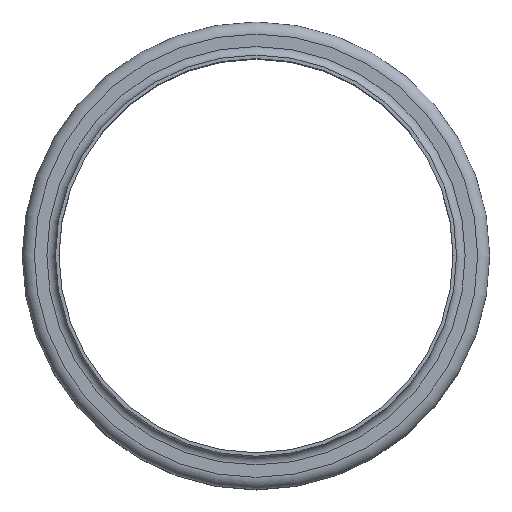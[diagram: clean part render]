
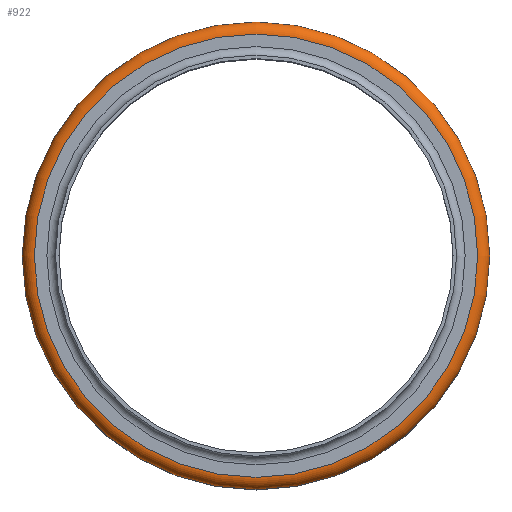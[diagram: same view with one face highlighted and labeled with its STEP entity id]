
A CAD part, top view. The second image highlights one B-rep face of the part: STEP entity #922.
In plain terms, the highlighted toroidal (fillet/blend) face has major radius 153.562 mm and minor radius 8.363 mm.
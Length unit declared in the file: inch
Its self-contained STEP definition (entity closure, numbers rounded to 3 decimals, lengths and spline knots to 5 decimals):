
#63=TOROIDAL_SURFACE('',#1113,6.04575,0.32925);
#166=FACE_OUTER_BOUND('',#273,.T.);
#273=EDGE_LOOP('',(#774,#775,#776,#777));
#386=CIRCLE('',#1112,6.04575);
#387=CIRCLE('',#1114,6.04575);
#388=CIRCLE('',#1115,0.32925);
#467=VERTEX_POINT('',#1738);
#468=VERTEX_POINT('',#1741);
#572=EDGE_CURVE('',#467,#467,#386,.T.);
#573=EDGE_CURVE('',#468,#468,#387,.T.);
#574=EDGE_CURVE('',#468,#467,#388,.T.);
#774=ORIENTED_EDGE('',*,*,#573,.F.);
#775=ORIENTED_EDGE('',*,*,#574,.T.);
#776=ORIENTED_EDGE('',*,*,#572,.T.);
#777=ORIENTED_EDGE('',*,*,#574,.F.);
#922=ADVANCED_FACE('',(#166),#63,.T.);
#1112=AXIS2_PLACEMENT_3D('',#1739,#1450,#1451);
#1113=AXIS2_PLACEMENT_3D('',#1740,#1452,#1453);
#1114=AXIS2_PLACEMENT_3D('',#1742,#1454,#1455);
#1115=AXIS2_PLACEMENT_3D('',#1743,#1456,#1457);
#1450=DIRECTION('center_axis',(0.,0.,-1.));
#1451=DIRECTION('ref_axis',(1.,0.,0.));
#1452=DIRECTION('center_axis',(0.,0.,-1.));
#1453=DIRECTION('ref_axis',(-1.,0.,0.));
#1454=DIRECTION('center_axis',(0.,0.,-1.));
#1455=DIRECTION('ref_axis',(1.,0.,0.));
#1456=DIRECTION('center_axis',(0.,-1.,0.));
#1457=DIRECTION('ref_axis',(1.,0.,0.));
#1738=CARTESIAN_POINT('',(6.04575,0.,-0.23325));
#1739=CARTESIAN_POINT('Origin',(0.,0.,-0.23325));
#1740=CARTESIAN_POINT('Origin',(0.,0.,-0.5625));
#1741=CARTESIAN_POINT('',(6.04575,0.,-0.89175));
#1742=CARTESIAN_POINT('Origin',(0.,0.,-0.89175));
#1743=CARTESIAN_POINT('Origin',(6.04575,0.,-0.5625));
